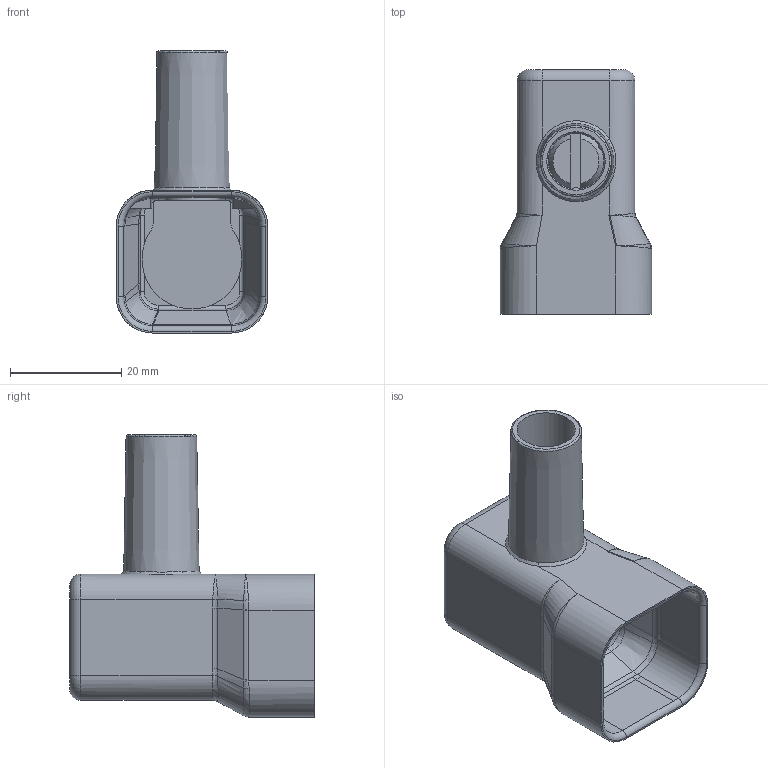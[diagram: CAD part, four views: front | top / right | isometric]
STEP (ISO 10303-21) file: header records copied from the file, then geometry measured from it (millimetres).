
FILE_DESCRIPTION(/* description */ (''),/* implementation_level */ '2;1');
FILE_NAME(/* name */ '4004731.stp',/* time_stamp */ '2016-09-26T09:54:33+02:00',/* author */ (''),/* organization */ (''),/* preprocessor_version */ 'ST-DEVELOPER v16',/* originating_system */ 'SIEMENS PLM Software NX 11.0',/* authorisation */ '');
FILE_SCHEMA (('AUTOMOTIVE_DESIGN { 1 0 10303 214 3 1 1 1 }'));
Length unit declared in the file: millimetre
Products named in the file (1): 4004731_LINKEDEXT_jt
Bounding box: 27.2 x 44 x 50.7 mm (x, y, z)
Surface area: 8281.1 mm2 (no closed solid volume)
Topology: 0 solids, 9 shells, 159 faces, 507 edges, 342 vertices
Faces by surface type: bspline 67, cylinder 43, plane 27, torus 17, cone 5
Full cylindrical faces by diameter (mm): 10 x1, 10.5 x1
Entity records: 8907 total; most frequent: CARTESIAN_POINT 4125, ORIENTED_EDGE 784, DIRECTION 594, EDGE_CURVE 486, VERTEX_POINT 334, AXIS2_PLACEMENT_3D 231, B_SPLINE_CURVE_WITH_KNOTS 205, EDGE_LOOP 169
